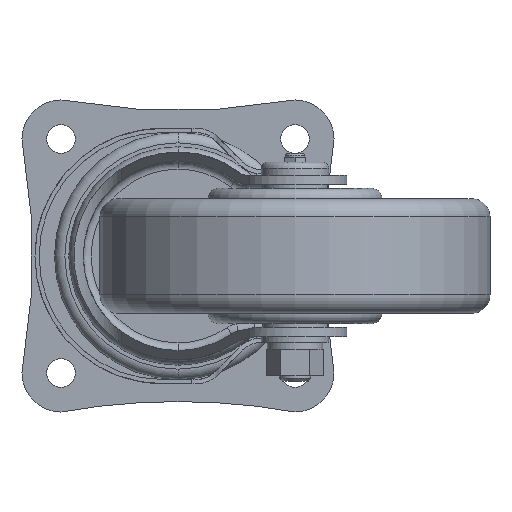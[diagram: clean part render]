
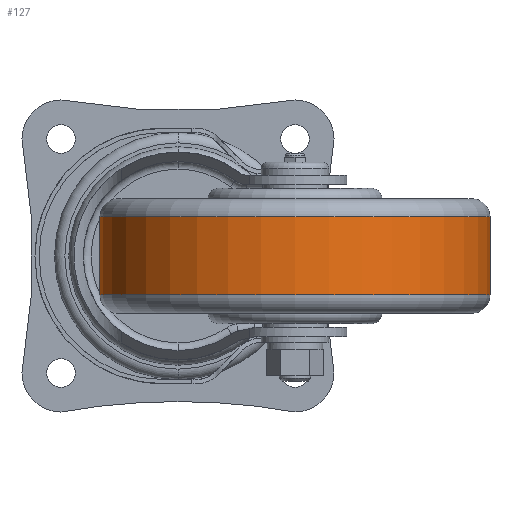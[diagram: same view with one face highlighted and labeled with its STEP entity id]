
A CAD part, front view. The second image highlights one B-rep face of the part: STEP entity #127.
In plain terms, the highlighted cylindrical face has radius 75 mm (diameter 150 mm), a partial arc.
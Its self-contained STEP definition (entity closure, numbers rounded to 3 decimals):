
#127 = ADVANCED_FACE ( 'NONE', ( #3741 ), #7046, .T. ) ;
#309 = AXIS2_PLACEMENT_3D ( 'NONE', #3296, #5483, #5294 ) ;
#647 = EDGE_LOOP ( 'NONE', ( #2823, #2322, #1368, #5423 ) ) ;
#1098 = VERTEX_POINT ( 'NONE', #7037 ) ;
#1368 = ORIENTED_EDGE ( 'NONE', *, *, #8008, .T. ) ;
#1543 = DIRECTION ( 'NONE',  ( 0., 0., 1. ) ) ;
#2015 = CARTESIAN_POINT ( 'NONE',  ( 0., 0., 15. ) ) ;
#2322 = ORIENTED_EDGE ( 'NONE', *, *, #7007, .T. ) ;
#2671 = DIRECTION ( 'NONE',  ( 0., 0., 1. ) ) ;
#2807 = LINE ( 'NONE', #4302, #6340 ) ;
#2823 = ORIENTED_EDGE ( 'NONE', *, *, #4091, .F. ) ;
#3112 = CARTESIAN_POINT ( 'NONE',  ( 75., 0., -15. ) ) ;
#3116 = VERTEX_POINT ( 'NONE', #5584 ) ;
#3296 = CARTESIAN_POINT ( 'NONE',  ( 0., 0., 34.804 ) ) ;
#3386 = VECTOR ( 'NONE', #5355, 1000. ) ;
#3741 = FACE_OUTER_BOUND ( 'NONE', #647, .T. ) ;
#4012 = DIRECTION ( 'NONE',  ( 1., 0., 0. ) ) ;
#4079 = VERTEX_POINT ( 'NONE', #3112 ) ;
#4091 = EDGE_CURVE ( 'NONE', #5964, #3116, #5177, .T. ) ;
#4182 = CIRCLE ( 'NONE', #7700, 75. ) ;
#4302 = CARTESIAN_POINT ( 'NONE',  ( 75., 0., 34.804 ) ) ;
#4504 = AXIS2_PLACEMENT_3D ( 'NONE', #2015, #2671, #4012 ) ;
#4673 = DIRECTION ( 'NONE',  ( 0., 0., 1. ) ) ;
#4763 = CARTESIAN_POINT ( 'NONE',  ( -75., 0., 34.804 ) ) ;
#5177 = LINE ( 'NONE', #4763, #3386 ) ;
#5294 = DIRECTION ( 'NONE',  ( 1., 0., 0. ) ) ;
#5355 = DIRECTION ( 'NONE',  ( 0., 0., 1. ) ) ;
#5423 = ORIENTED_EDGE ( 'NONE', *, *, #6471, .F. ) ;
#5483 = DIRECTION ( 'NONE',  ( 0., 0., 1. ) ) ;
#5541 = CARTESIAN_POINT ( 'NONE',  ( 0., 0., -15. ) ) ;
#5584 = CARTESIAN_POINT ( 'NONE',  ( -75., 0., 15. ) ) ;
#5964 = VERTEX_POINT ( 'NONE', #8005 ) ;
#6191 = DIRECTION ( 'NONE',  ( 1., 0., 0. ) ) ;
#6340 = VECTOR ( 'NONE', #4673, 1000. ) ;
#6471 = EDGE_CURVE ( 'NONE', #3116, #1098, #7791, .T. ) ;
#7007 = EDGE_CURVE ( 'NONE', #5964, #4079, #4182, .T. ) ;
#7037 = CARTESIAN_POINT ( 'NONE',  ( 75., 0., 15. ) ) ;
#7046 = CYLINDRICAL_SURFACE ( 'NONE', #309, 75. ) ;
#7700 = AXIS2_PLACEMENT_3D ( 'NONE', #5541, #1543, #6191 ) ;
#7791 = CIRCLE ( 'NONE', #4504, 75. ) ;
#8005 = CARTESIAN_POINT ( 'NONE',  ( -75., 0., -15. ) ) ;
#8008 = EDGE_CURVE ( 'NONE', #4079, #1098, #2807, .T. ) ;
